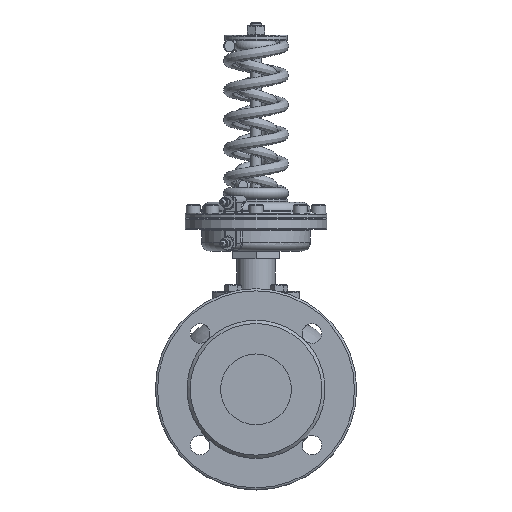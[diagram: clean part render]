
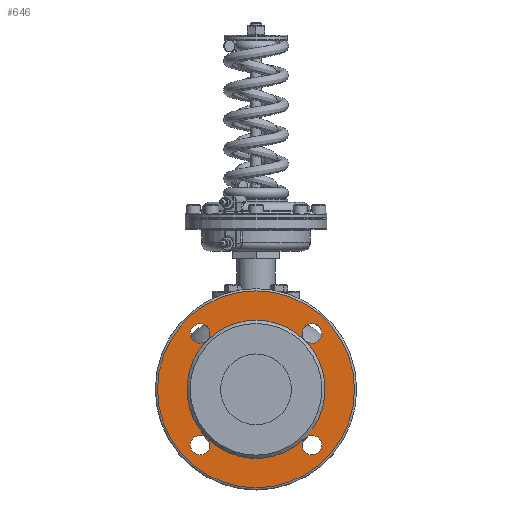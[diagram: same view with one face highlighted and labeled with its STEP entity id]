
A CAD part, front view. The second image highlights one B-rep face of the part: STEP entity #646.
In plain terms, the highlighted planar face has unit normal (0, -1, 0).
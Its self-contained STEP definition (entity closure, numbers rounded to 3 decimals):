
#646=ADVANCED_FACE('',(#13086,#13088,#13090,#13092,#13094,#13096),#13098,.T.);
#13086=FACE_BOUND('',#13087,.T.);
#13087=EDGE_LOOP('',(#30449));
#13088=FACE_BOUND('',#13089,.T.);
#13089=EDGE_LOOP('',(#30450,#30451));
#13090=FACE_BOUND('',#13091,.T.);
#13091=EDGE_LOOP('',(#30452,#30453,#30454));
#13092=FACE_BOUND('',#13093,.T.);
#13093=EDGE_LOOP('',(#30455));
#13094=FACE_BOUND('',#13095,.T.);
#13095=EDGE_LOOP('',(#30456));
#13096=FACE_BOUND('',#13097,.T.);
#13097=EDGE_LOOP('',(#30457,#30458));
#13098=PLANE('',#13099);
#13099=AXIS2_PLACEMENT_3D('',#13100,#13101,#13102);
#13100=CARTESIAN_POINT('',(0.,-142.,0.));
#13101=DIRECTION('',(0.,-1.,0.));
#13102=DIRECTION('',(0.,0.,1.));
#30449=ORIENTED_EDGE('',*,*,#32415,.F.);
#30450=ORIENTED_EDGE('',*,*,#32377,.T.);
#30451=ORIENTED_EDGE('',*,*,#32378,.T.);
#30452=ORIENTED_EDGE('',*,*,#32416,.T.);
#30453=ORIENTED_EDGE('',*,*,#32417,.T.);
#30454=ORIENTED_EDGE('',*,*,#32418,.T.);
#30455=ORIENTED_EDGE('',*,*,#32381,.T.);
#30456=ORIENTED_EDGE('',*,*,#32376,.T.);
#30457=ORIENTED_EDGE('',*,*,#32379,.T.);
#30458=ORIENTED_EDGE('',*,*,#32380,.T.);
#32376=EDGE_CURVE('',#33459,#33459,#33460,.T.);
#32377=EDGE_CURVE('',#33461,#33462,#33463,.T.);
#32378=EDGE_CURVE('',#33462,#33461,#33464,.T.);
#32379=EDGE_CURVE('',#33465,#33466,#33467,.T.);
#32380=EDGE_CURVE('',#33466,#33465,#33468,.T.);
#32381=EDGE_CURVE('',#33469,#33469,#33470,.T.);
#32415=EDGE_CURVE('',#33529,#33529,#33530,.T.);
#32416=EDGE_CURVE('',#33461,#33465,#33531,.T.);
#32417=EDGE_CURVE('',#33465,#33532,#33533,.T.);
#32418=EDGE_CURVE('',#33532,#33461,#33534,.T.);
#33459=VERTEX_POINT('',#37949);
#33460=CIRCLE('',#37950,9.);
#33461=VERTEX_POINT('',#37954);
#33462=VERTEX_POINT('',#37955);
#33463=CIRCLE('',#37956,9.);
#33464=CIRCLE('',#37960,9.);
#33465=VERTEX_POINT('',#37964);
#33466=VERTEX_POINT('',#37965);
#33467=CIRCLE('',#37966,9.);
#33468=CIRCLE('',#37970,9.);
#33469=VERTEX_POINT('',#37974);
#33470=CIRCLE('',#37975,9.);
#33529=VERTEX_POINT('',#38552);
#33530=CIRCLE('',#38553,90.5);
#33531=CIRCLE('',#38557,63.5);
#33532=VERTEX_POINT('',#38561);
#33533=CIRCLE('',#38562,63.5);
#33534=CIRCLE('',#38566,63.5);
#37949=CARTESIAN_POINT('',(-60.265,-142.,51.265));
#37950=AXIS2_PLACEMENT_3D('',#37951,#37952,#37953);
#37951=CARTESIAN_POINT('',(-51.265,-142.,51.265));
#37952=DIRECTION('',(0.,1.,-0.));
#37953=DIRECTION('',(-1.,0.,0.));
#37954=CARTESIAN_POINT('',(44.901,-142.,44.901));
#37955=CARTESIAN_POINT('',(51.265,-142.,60.265));
#37956=AXIS2_PLACEMENT_3D('',#37957,#37958,#37959);
#37957=CARTESIAN_POINT('',(51.265,-142.,51.265));
#37958=DIRECTION('',(0.,1.,0.));
#37959=DIRECTION('',(-0.707,0.,-0.707));
#37960=AXIS2_PLACEMENT_3D('',#37961,#37962,#37963);
#37961=CARTESIAN_POINT('',(51.265,-142.,51.265));
#37962=DIRECTION('',(0.,1.,0.));
#37963=DIRECTION('',(0.,0.,1.));
#37964=CARTESIAN_POINT('',(44.901,-142.,-44.901));
#37965=CARTESIAN_POINT('',(60.265,-142.,-51.265));
#37966=AXIS2_PLACEMENT_3D('',#37967,#37968,#37969);
#37967=CARTESIAN_POINT('',(51.265,-142.,-51.265));
#37968=DIRECTION('',(0.,1.,0.));
#37969=DIRECTION('',(-0.707,0.,0.707));
#37970=AXIS2_PLACEMENT_3D('',#37971,#37972,#37973);
#37971=CARTESIAN_POINT('',(51.265,-142.,-51.265));
#37972=DIRECTION('',(0.,1.,0.));
#37973=DIRECTION('',(1.,0.,0.));
#37974=CARTESIAN_POINT('',(-51.265,-142.,-60.265));
#37975=AXIS2_PLACEMENT_3D('',#37976,#37977,#37978);
#37976=CARTESIAN_POINT('',(-51.265,-142.,-51.265));
#37977=DIRECTION('',(0.,1.,-0.));
#37978=DIRECTION('',(0.,0.,-1.));
#38552=CARTESIAN_POINT('',(0.,-142.,90.5));
#38553=AXIS2_PLACEMENT_3D('',#38554,#38555,#38556);
#38554=CARTESIAN_POINT('',(0.,-142.,0.));
#38555=DIRECTION('',(0.,1.,-0.));
#38556=DIRECTION('',(0.,0.,1.));
#38557=AXIS2_PLACEMENT_3D('',#38558,#38559,#38560);
#38558=CARTESIAN_POINT('',(0.,-142.,0.));
#38559=DIRECTION('',(0.,1.,0.));
#38560=DIRECTION('',(0.707,0.,0.707));
#38561=CARTESIAN_POINT('',(0.,-142.,63.5));
#38562=AXIS2_PLACEMENT_3D('',#38563,#38564,#38565);
#38563=CARTESIAN_POINT('',(0.,-142.,0.));
#38564=DIRECTION('',(0.,1.,0.));
#38565=DIRECTION('',(0.707,0.,-0.707));
#38566=AXIS2_PLACEMENT_3D('',#38567,#38568,#38569);
#38567=CARTESIAN_POINT('',(0.,-142.,0.));
#38568=DIRECTION('',(0.,1.,0.));
#38569=DIRECTION('',(0.,0.,1.));
